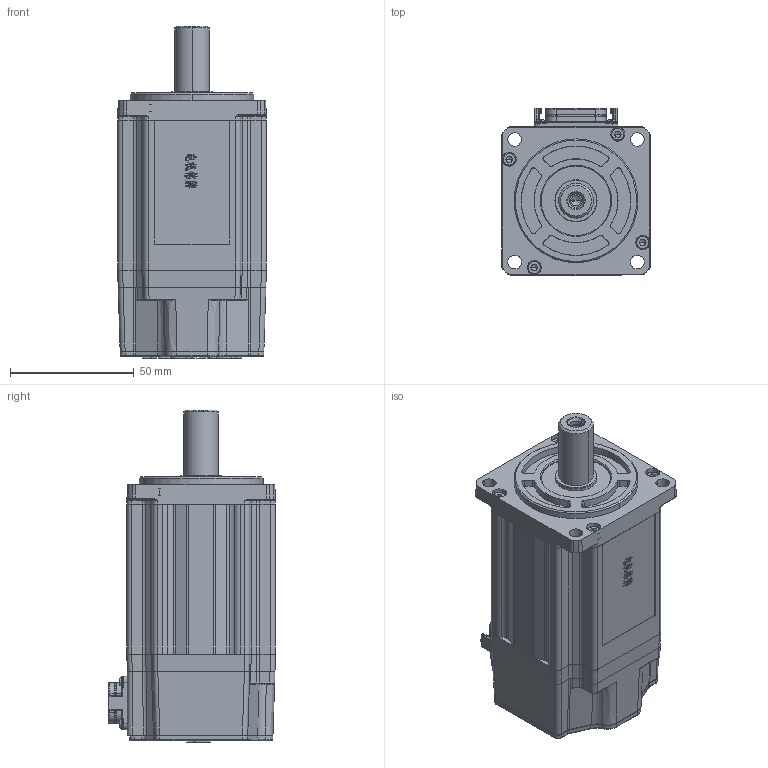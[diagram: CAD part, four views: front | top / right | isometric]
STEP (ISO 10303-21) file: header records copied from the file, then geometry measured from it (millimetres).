
FILE_DESCRIPTION (( 'STEP AP203' ), '1' );
FILE_NAME ('MC20-060-3L30-N401-0¡õCL-NNNN.STEP', '2026-04-19T15:10:51', ( '' ), ( '' ), 'SwSTEP 2.0', 'SolidWorks 2014', '' );
FILE_SCHEMA (( 'CONFIG_CONTROL_DESIGN' ));
Products named in the file (1): MC20-060-3L30-N401-0¡õCL-NNNN
Bounding box: 60 x 67.55 x 134 mm (x, y, z)
Volume: 338858.8 mm3; surface area: 70360.7 mm2
Topology: 10 solids, 14 shells, 2364 faces, 6360 edges, 4094 vertices
Faces by surface type: plane 1104, cylinder 562, bspline 484, cone 178, torus 36
Entity records: 96750 total; most frequent: CARTESIAN_POINT 41812, ORIENTED_EDGE 12578, DIRECTION 9498, EDGE_CURVE 6289, VERTEX_POINT 4094, LINE 3696, VECTOR 3696, AXIS2_PLACEMENT_3D 2901
